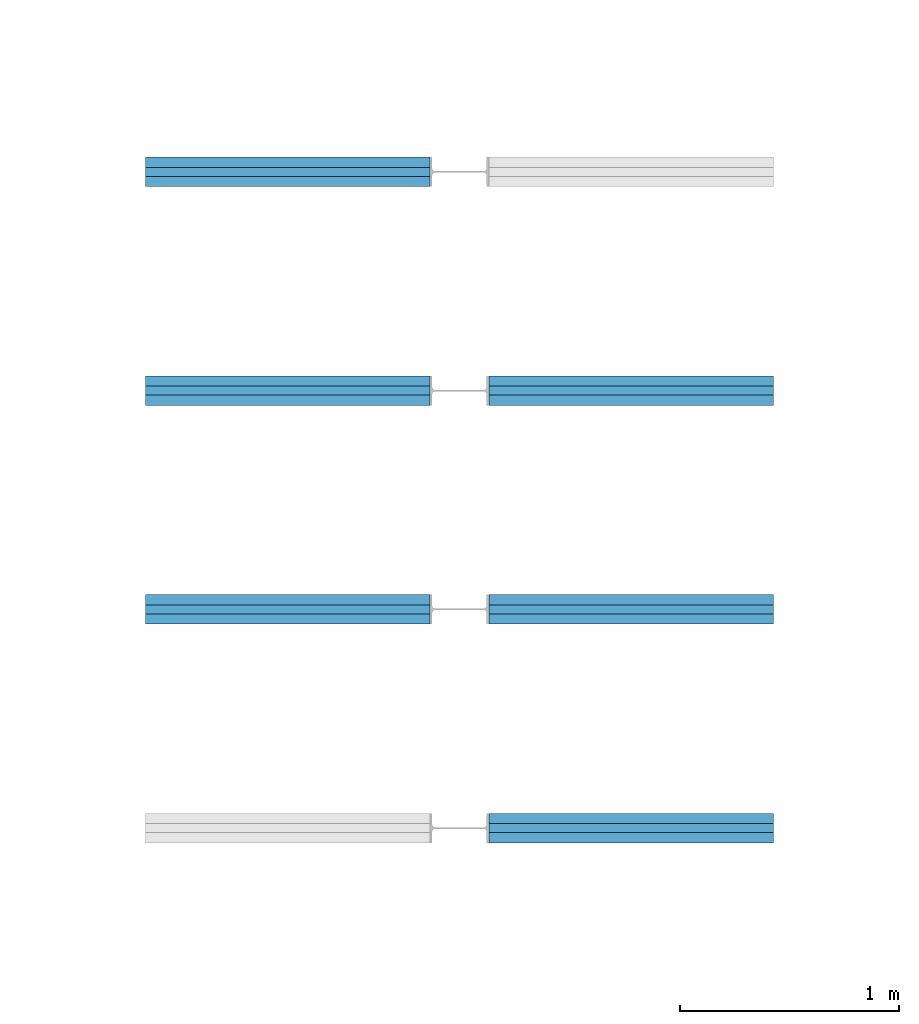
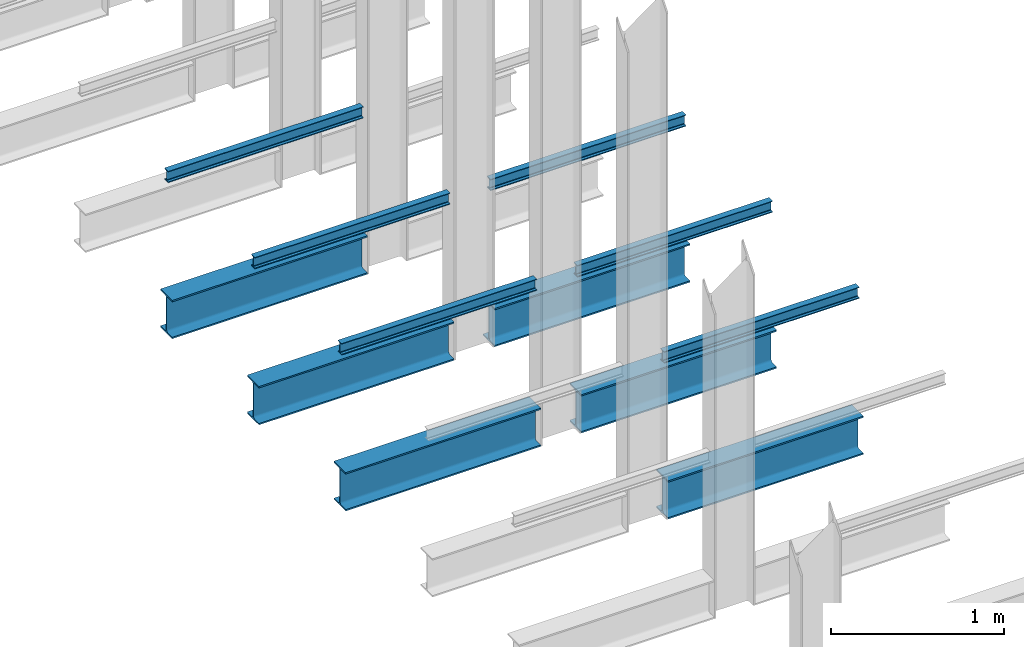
# One storey, part 170 of 302: 12 beams.
"""IFC2X3 building model written with IfcOpenShell, lengths in metres."""

from ifc_helpers import new_model, entity, si_unit, converted_unit, derived_unit, direction, frame, frame_2d, origin, place, context, subcontext, project, spatial, polyline, circle_curve, parameter, trimmed, segment, composite_curve, i_section, outline, extrude, material, type_object, element, save


model = new_model("IFC2X3")

# Units and contexts
model_context = context("Model", 3, precision=1e-05, world=origin(), true_north=direction((6.12303176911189e-17, 1.0)))
body_context = subcontext(model_context, "Body", "Model", "MODEL_VIEW")
ifc_project = project(units=[si_unit("LENGTHUNIT", "METRE"), si_unit("AREAUNIT", "SQUARE_METRE"), si_unit("VOLUMEUNIT", "CUBIC_METRE"), converted_unit("PLANEANGLEUNIT", "DEGREE", entity("IfcRatioMeasure", 0.0174532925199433), si_unit("PLANEANGLEUNIT", "RADIAN"), dimensions=[0, 0, 0, 0, 0, 0, 0]), si_unit("MASSUNIT", "GRAM", prefix="KILO"), derived_unit("MASSDENSITYUNIT", [(si_unit("MASSUNIT", "GRAM", prefix="KILO"), 1), (si_unit("LENGTHUNIT", "METRE"), -3)]), derived_unit("MOMENTOFINERTIAUNIT", [(si_unit("LENGTHUNIT", "METRE"), 4)]), si_unit("TIMEUNIT", "SECOND"), si_unit("FREQUENCYUNIT", "HERTZ"), si_unit("THERMODYNAMICTEMPERATUREUNIT", "DEGREE_CELSIUS"), derived_unit("THERMALTRANSMITTANCEUNIT", [(si_unit("MASSUNIT", "GRAM", prefix="KILO"), 1), (si_unit("THERMODYNAMICTEMPERATUREUNIT", "KELVIN"), -1), (si_unit("TIMEUNIT", "SECOND"), -3)]), derived_unit("VOLUMETRICFLOWRATEUNIT", [(si_unit("LENGTHUNIT", "METRE"), 3), (si_unit("TIMEUNIT", "SECOND"), -1)]), si_unit("ELECTRICCURRENTUNIT", "AMPERE"), si_unit("ELECTRICVOLTAGEUNIT", "VOLT"), si_unit("POWERUNIT", "WATT"), si_unit("FORCEUNIT", "NEWTON", prefix="KILO"), si_unit("ILLUMINANCEUNIT", "LUX"), si_unit("LUMINOUSFLUXUNIT", "LUMEN"), si_unit("LUMINOUSINTENSITYUNIT", "CANDELA"), derived_unit("USERDEFINED", [(si_unit("MASSUNIT", "GRAM", prefix="KILO"), -1), (si_unit("LENGTHUNIT", "METRE"), -2), (si_unit("TIMEUNIT", "SECOND"), 3), (si_unit("LUMINOUSFLUXUNIT", "LUMEN"), 1)]), derived_unit("LINEARVELOCITYUNIT", [(si_unit("LENGTHUNIT", "METRE"), 1), (si_unit("TIMEUNIT", "SECOND"), -1)]), si_unit("PRESSUREUNIT", "PASCAL"), derived_unit("USERDEFINED", [(si_unit("LENGTHUNIT", "METRE"), -2), (si_unit("MASSUNIT", "GRAM", prefix="KILO"), 1), (si_unit("TIMEUNIT", "SECOND"), -2)]), derived_unit("LINEARFORCEUNIT", [(si_unit("MASSUNIT", "GRAM", prefix="KILO"), 1), (si_unit("LENGTHUNIT", "METRE"), 1), (si_unit("TIMEUNIT", "SECOND"), -2), (si_unit("LENGTHUNIT", "METRE"), -1)]), derived_unit("PLANARFORCEUNIT", [(si_unit("MASSUNIT", "GRAM", prefix="KILO"), 1), (si_unit("LENGTHUNIT", "METRE"), 1), (si_unit("TIMEUNIT", "SECOND"), -2), (si_unit("LENGTHUNIT", "METRE"), -2)])], contexts=[model_context])

# Site, building, storey
site_placement = place(None, origin())
site = spatial("IfcSite", under=ifc_project, at=site_placement, Name="Default", CompositionType="ELEMENT")
building_placement = place(site_placement, origin())
building = spatial("IfcBuilding", under=site, at=building_placement, CompositionType="ELEMENT")
storey_placement = place(building_placement, frame((0.0, 0.0, -1.3)))
storey = spatial("IfcBuildingStorey", under=building, at=storey_placement, Name="00_EG", CompositionType="ELEMENT", Elevation=-1.3)

# Beams
ifc_material = material(Name="Metall - Baustahl S235")
beam_type_1 = type_object("IfcBeamType", Name="IPN Träger:IPN 80", PredefinedType="NOTDEFINED")
beam_1_placement = place(storey_placement, frame((-164.910111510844, 39.036588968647, 2.42), z_axis=(0.0, 0.0, 1.0), x_axis=(-1.0, 0.0, 0.0)))
element("IfcBeam", 1, at=beam_1_placement, inside=storey, type_object=beam_type_1, material=ifc_material, Name="IPN Träger:IPN 80", ObjectType="IPN Träger:IPN 80", context=body_context, shape_type="SweptSolid", body=[
    extrude(outline(composite_curve([segment(polyline([(0.0375704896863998, -0.0210000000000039), (0.0399999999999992, -0.0210000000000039)]), True, "CONTINUOUS"), segment(polyline([(0.0399999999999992, -0.0210000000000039), (0.0399999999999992, 0.0209999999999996)]), True, "CONTINUOUS"), segment(polyline([(0.039999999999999, 0.0209999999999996), (0.037570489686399, 0.0209999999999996)]), True, "CONTINUOUS"), segment(trimmed(circle_curve(frame_2d((0.037570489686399, 0.0187000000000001), x_axis=(0.0, 1.0)), 0.00230000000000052), [parameter(0.0)], [parameter(82.0299999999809)], True, "PARAMETER"), True, "CONTINUOUS"), segment(polyline([(0.0352927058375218, 0.0190189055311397), (0.0333732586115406, 0.0053092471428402)]), True, "CONTINUOUS"), segment(trimmed(circle_curve(frame_2d((0.0295109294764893, 0.00584999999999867), x_axis=(0.990340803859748, -0.138654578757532)), 0.00389999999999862), [parameter(277.969999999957)], [parameter(0.0)], True, "PARAMETER"), False, "CONTINUOUS"), segment(polyline([(0.0295109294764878, 0.00194999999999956), (-0.0295109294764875, 0.00194999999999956)]), True, "CONTINUOUS"), segment(trimmed(circle_curve(frame_2d((-0.029510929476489, 0.00584999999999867), x_axis=(0.0, -1.0)), 0.00389999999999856), [parameter(277.969999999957)], [parameter(0.0)], True, "PARAMETER"), False, "CONTINUOUS"), segment(polyline([(-0.0333732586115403, 0.00530924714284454), (-0.0352927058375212, 0.019018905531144)]), True, "CONTINUOUS"), segment(trimmed(circle_curve(frame_2d((-0.0375704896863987, 0.0187000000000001), x_axis=(0.990340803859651, 0.138654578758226)), 0.00230000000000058), [parameter(0.0)], [parameter(82.029999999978)], True, "PARAMETER"), True, "CONTINUOUS"), segment(polyline([(-0.0375704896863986, 0.0209999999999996), (-0.0400000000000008, 0.0209999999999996)]), True, "CONTINUOUS"), segment(polyline([(-0.0400000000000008, 0.0209999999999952), (-0.0400000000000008, -0.0210000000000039)]), True, "CONTINUOUS"), segment(polyline([(-0.0400000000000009, -0.0210000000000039), (-0.037570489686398, -0.0210000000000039)]), True, "CONTINUOUS"), segment(trimmed(circle_curve(frame_2d((-0.0375704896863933, -0.0187000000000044), x_axis=(0.0, -1.0)), 0.00229999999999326), [parameter(0.0)], [parameter(82.0300000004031)], True, "PARAMETER"), True, "CONTINUOUS"), segment(polyline([(-0.0352927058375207, -0.019018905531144), (-0.0333732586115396, -0.00530924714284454)]), True, "CONTINUOUS"), segment(trimmed(circle_curve(frame_2d((-0.0295109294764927, -0.00584999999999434), x_axis=(-0.990340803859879, 0.138654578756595)), 0.00389999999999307), [parameter(277.969999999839)], [parameter(0.0)], True, "PARAMETER"), False, "CONTINUOUS"), segment(polyline([(-0.0295109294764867, -0.00195000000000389), (0.0295109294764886, -0.00195000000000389)]), True, "CONTINUOUS"), segment(trimmed(circle_curve(frame_2d((0.0295109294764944, -0.00584999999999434), x_axis=(0.0, 1.0)), 0.00389999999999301), [parameter(277.969999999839)], [parameter(0.0)], True, "PARAMETER"), False, "CONTINUOUS"), segment(polyline([(0.0333732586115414, -0.00530924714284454), (0.0352927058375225, -0.019018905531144)]), True, "CONTINUOUS"), segment(trimmed(circle_curve(frame_2d((0.0375704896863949, -0.0187000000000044), x_axis=(-0.990340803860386, -0.138654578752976)), 0.00229999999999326), [parameter(0.0)], [parameter(82.0300000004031)], True, "PARAMETER"), True, "CONTINUOUS")], self_intersect=False)), frame((0.000100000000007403, 0.0209999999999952, -0.0400000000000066), z_axis=(1.0, 0.0, 0.0), x_axis=(0.0, 0.0, -1.0)), (0.0, 0.0, 1.0), 1.29990000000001),
])
beam_2_placement = place(storey_placement, frame((-164.640111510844, 37.994588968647, 2.42)))
element("IfcBeam", 2, at=beam_2_placement, inside=storey, type_object=beam_type_1, material=ifc_material, Name="IPN Träger:IPN 80", ObjectType="IPN Träger:IPN 80", context=body_context, shape_type="SweptSolid", body=[
    extrude(outline(composite_curve([segment(polyline([(0.0375704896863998, -0.0209999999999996), (0.0399999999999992, -0.0209999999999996)]), True, "CONTINUOUS"), segment(polyline([(0.0399999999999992, -0.0209999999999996), (0.0399999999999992, 0.0209999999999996)]), True, "CONTINUOUS"), segment(polyline([(0.039999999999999, 0.0209999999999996), (0.037570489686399, 0.0209999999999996)]), True, "CONTINUOUS"), segment(trimmed(circle_curve(frame_2d((0.037570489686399, 0.0187000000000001), x_axis=(0.0, 1.0)), 0.00230000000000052), [parameter(0.0)], [parameter(82.0299999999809)], True, "PARAMETER"), True, "CONTINUOUS"), segment(polyline([(0.0352927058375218, 0.0190189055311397), (0.0333732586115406, 0.00530924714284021)]), True, "CONTINUOUS"), segment(trimmed(circle_curve(frame_2d((0.0295109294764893, 0.00584999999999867), x_axis=(0.990340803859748, -0.138654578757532)), 0.00389999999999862), [parameter(277.969999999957)], [parameter(0.0)], True, "PARAMETER"), False, "CONTINUOUS"), segment(polyline([(0.0295109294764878, 0.00194999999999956), (-0.0295109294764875, 0.00194999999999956)]), True, "CONTINUOUS"), segment(trimmed(circle_curve(frame_2d((-0.029510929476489, 0.00584999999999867), x_axis=(0.0, -1.0)), 0.00389999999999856), [parameter(277.969999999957)], [parameter(0.0)], True, "PARAMETER"), False, "CONTINUOUS"), segment(polyline([(-0.0333732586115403, 0.00530924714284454), (-0.0352927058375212, 0.019018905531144)]), True, "CONTINUOUS"), segment(trimmed(circle_curve(frame_2d((-0.0375704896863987, 0.0187000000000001), x_axis=(0.990340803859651, 0.138654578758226)), 0.00230000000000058), [parameter(0.0)], [parameter(82.029999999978)], True, "PARAMETER"), True, "CONTINUOUS"), segment(polyline([(-0.0375704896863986, 0.0209999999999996), (-0.0400000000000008, 0.0209999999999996)]), True, "CONTINUOUS"), segment(polyline([(-0.0400000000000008, 0.0209999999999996), (-0.0400000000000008, -0.0209999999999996)]), True, "CONTINUOUS"), segment(polyline([(-0.0400000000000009, -0.0209999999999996), (-0.037570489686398, -0.0209999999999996)]), True, "CONTINUOUS"), segment(trimmed(circle_curve(frame_2d((-0.0375704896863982, -0.0187000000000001), x_axis=(0.0, -1.0)), 0.00230000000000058), [parameter(0.0)], [parameter(82.029999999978)], True, "PARAMETER"), True, "CONTINUOUS"), segment(polyline([(-0.0352927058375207, -0.0190189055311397), (-0.0333732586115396, -0.00530924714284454)]), True, "CONTINUOUS"), segment(trimmed(circle_curve(frame_2d((-0.0295109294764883, -0.00584999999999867), x_axis=(-0.990340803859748, 0.138654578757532)), 0.00389999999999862), [parameter(277.969999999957)], [parameter(0.0)], True, "PARAMETER"), False, "CONTINUOUS"), segment(polyline([(-0.0295109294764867, -0.00194999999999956), (0.0295109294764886, -0.00194999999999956)]), True, "CONTINUOUS"), segment(trimmed(circle_curve(frame_2d((0.0295109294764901, -0.00584999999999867), x_axis=(0.0, 1.0)), 0.00389999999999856), [parameter(277.969999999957)], [parameter(0.0)], True, "PARAMETER"), False, "CONTINUOUS"), segment(polyline([(0.0333732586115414, -0.00530924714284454), (0.0352927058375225, -0.019018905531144)]), True, "CONTINUOUS"), segment(trimmed(circle_curve(frame_2d((0.0375704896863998, -0.0187000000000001), x_axis=(-0.990340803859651, -0.138654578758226)), 0.00230000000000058), [parameter(0.0)], [parameter(82.029999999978)], True, "PARAMETER"), True, "CONTINUOUS")], self_intersect=False)), frame((9.99999999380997e-05, 0.0209999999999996, -0.0400000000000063), z_axis=(1.0, 0.0, 0.0), x_axis=(0.0, 0.0, -1.0)), (0.0, 0.0, 1.0), 1.29990000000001),
])
beam_3_placement = place(storey_placement, frame((-164.910111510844, 38.036588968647, 2.42), z_axis=(0.0, 0.0, 1.0), x_axis=(-1.0, 0.0, 0.0)))
element("IfcBeam", 3, at=beam_3_placement, inside=storey, type_object=beam_type_1, material=ifc_material, Name="IPN Träger:IPN 80", ObjectType="IPN Träger:IPN 80", context=body_context, shape_type="SweptSolid", body=[
    extrude(outline(composite_curve([segment(polyline([(0.0375704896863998, -0.0210000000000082), (0.0399999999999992, -0.0210000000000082)]), True, "CONTINUOUS"), segment(polyline([(0.0399999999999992, -0.0210000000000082), (0.0399999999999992, 0.0209999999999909)]), True, "CONTINUOUS"), segment(polyline([(0.039999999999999, 0.0209999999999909), (0.037570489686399, 0.0209999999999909)]), True, "CONTINUOUS"), segment(trimmed(circle_curve(frame_2d((0.037570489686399, 0.0186999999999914), x_axis=(0.0, 1.0)), 0.00230000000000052), [parameter(0.0)], [parameter(82.0299999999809)], True, "PARAMETER"), True, "CONTINUOUS"), segment(polyline([(0.0352927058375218, 0.019018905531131), (0.0333732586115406, 0.00530924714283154)]), True, "CONTINUOUS"), segment(trimmed(circle_curve(frame_2d((0.0295109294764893, 0.00584999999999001), x_axis=(0.990340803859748, -0.138654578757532)), 0.00389999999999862), [parameter(277.969999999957)], [parameter(0.0)], True, "PARAMETER"), False, "CONTINUOUS"), segment(polyline([(0.0295109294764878, 0.00194999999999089), (-0.0295109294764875, 0.00194999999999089)]), True, "CONTINUOUS"), segment(trimmed(circle_curve(frame_2d((-0.029510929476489, 0.00584999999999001), x_axis=(0.0, -1.0)), 0.00389999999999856), [parameter(277.969999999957)], [parameter(0.0)], True, "PARAMETER"), False, "CONTINUOUS"), segment(polyline([(-0.0333732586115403, 0.00530924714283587), (-0.0352927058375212, 0.0190189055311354)]), True, "CONTINUOUS"), segment(trimmed(circle_curve(frame_2d((-0.0375704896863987, 0.0186999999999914), x_axis=(0.990340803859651, 0.138654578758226)), 0.00230000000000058), [parameter(0.0)], [parameter(82.029999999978)], True, "PARAMETER"), True, "CONTINUOUS"), segment(polyline([(-0.0375704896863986, 0.0209999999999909), (-0.0400000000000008, 0.0209999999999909)]), True, "CONTINUOUS"), segment(polyline([(-0.0400000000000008, 0.0209999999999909), (-0.0400000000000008, -0.0210000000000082)]), True, "CONTINUOUS"), segment(polyline([(-0.0400000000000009, -0.0210000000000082), (-0.037570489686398, -0.0210000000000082)]), True, "CONTINUOUS"), segment(trimmed(circle_curve(frame_2d((-0.0375704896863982, -0.0187000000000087), x_axis=(0.0, -1.0)), 0.00230000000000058), [parameter(0.0)], [parameter(82.029999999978)], True, "PARAMETER"), True, "CONTINUOUS"), segment(polyline([(-0.0352927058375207, -0.0190189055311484), (-0.0333732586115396, -0.0053092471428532)]), True, "CONTINUOUS"), segment(trimmed(circle_curve(frame_2d((-0.0295109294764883, -0.00585000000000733), x_axis=(-0.990340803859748, 0.138654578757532)), 0.00389999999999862), [parameter(277.969999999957)], [parameter(0.0)], True, "PARAMETER"), False, "CONTINUOUS"), segment(polyline([(-0.0295109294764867, -0.00195000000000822), (0.0295109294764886, -0.00195000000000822)]), True, "CONTINUOUS"), segment(trimmed(circle_curve(frame_2d((0.0295109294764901, -0.00585000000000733), x_axis=(0.0, 1.0)), 0.00389999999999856), [parameter(277.969999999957)], [parameter(0.0)], True, "PARAMETER"), False, "CONTINUOUS"), segment(polyline([(0.0333732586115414, -0.0053092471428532), (0.0352927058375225, -0.0190189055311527)]), True, "CONTINUOUS"), segment(trimmed(circle_curve(frame_2d((0.0375704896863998, -0.0187000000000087), x_axis=(-0.990340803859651, -0.138654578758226)), 0.00230000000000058), [parameter(0.0)], [parameter(82.029999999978)], True, "PARAMETER"), True, "CONTINUOUS")], self_intersect=False)), frame((0.000100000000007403, 0.0210000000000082, -0.0400000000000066), z_axis=(1.0, 0.0, 0.0), x_axis=(0.0, 0.0, -1.0)), (0.0, 0.0, 1.0), 1.29990000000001),
])
beam_4_placement = place(storey_placement, frame((-164.640111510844, 36.994588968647, 2.42)))
element("IfcBeam", 4, at=beam_4_placement, inside=storey, type_object=beam_type_1, material=ifc_material, Name="IPN Träger:IPN 80", ObjectType="IPN Träger:IPN 80", context=body_context, shape_type="SweptSolid", body=[
    extrude(outline(composite_curve([segment(polyline([(0.0375704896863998, -0.0210000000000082), (0.0399999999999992, -0.0210000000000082)]), True, "CONTINUOUS"), segment(polyline([(0.0399999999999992, -0.0210000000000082), (0.0399999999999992, 0.0209999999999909)]), True, "CONTINUOUS"), segment(polyline([(0.039999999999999, 0.0209999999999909), (0.037570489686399, 0.0209999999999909)]), True, "CONTINUOUS"), segment(trimmed(circle_curve(frame_2d((0.037570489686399, 0.0186999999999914), x_axis=(0.0, 1.0)), 0.00230000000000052), [parameter(0.0)], [parameter(82.0299999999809)], True, "PARAMETER"), True, "CONTINUOUS"), segment(polyline([(0.0352927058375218, 0.019018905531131), (0.0333732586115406, 0.00530924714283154)]), True, "CONTINUOUS"), segment(trimmed(circle_curve(frame_2d((0.0295109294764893, 0.00584999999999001), x_axis=(0.990340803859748, -0.138654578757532)), 0.00389999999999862), [parameter(277.969999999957)], [parameter(0.0)], True, "PARAMETER"), False, "CONTINUOUS"), segment(polyline([(0.0295109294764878, 0.00194999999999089), (-0.0295109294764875, 0.00194999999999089)]), True, "CONTINUOUS"), segment(trimmed(circle_curve(frame_2d((-0.029510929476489, 0.00584999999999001), x_axis=(0.0, -1.0)), 0.00389999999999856), [parameter(277.969999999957)], [parameter(0.0)], True, "PARAMETER"), False, "CONTINUOUS"), segment(polyline([(-0.0333732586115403, 0.00530924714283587), (-0.0352927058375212, 0.0190189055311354)]), True, "CONTINUOUS"), segment(trimmed(circle_curve(frame_2d((-0.0375704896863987, 0.0186999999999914), x_axis=(0.990340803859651, 0.138654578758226)), 0.00230000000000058), [parameter(0.0)], [parameter(82.029999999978)], True, "PARAMETER"), True, "CONTINUOUS"), segment(polyline([(-0.0375704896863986, 0.0209999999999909), (-0.0400000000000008, 0.0209999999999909)]), True, "CONTINUOUS"), segment(polyline([(-0.0400000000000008, 0.0209999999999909), (-0.0400000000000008, -0.0210000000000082)]), True, "CONTINUOUS"), segment(polyline([(-0.0400000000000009, -0.0210000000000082), (-0.037570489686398, -0.0210000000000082)]), True, "CONTINUOUS"), segment(trimmed(circle_curve(frame_2d((-0.0375704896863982, -0.0187000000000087), x_axis=(0.0, -1.0)), 0.00230000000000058), [parameter(0.0)], [parameter(82.029999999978)], True, "PARAMETER"), True, "CONTINUOUS"), segment(polyline([(-0.0352927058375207, -0.0190189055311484), (-0.0333732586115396, -0.0053092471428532)]), True, "CONTINUOUS"), segment(trimmed(circle_curve(frame_2d((-0.0295109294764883, -0.00585000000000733), x_axis=(-0.990340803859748, 0.138654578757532)), 0.00389999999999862), [parameter(277.969999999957)], [parameter(0.0)], True, "PARAMETER"), False, "CONTINUOUS"), segment(polyline([(-0.0295109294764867, -0.00195000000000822), (0.0295109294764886, -0.00195000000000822)]), True, "CONTINUOUS"), segment(trimmed(circle_curve(frame_2d((0.0295109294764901, -0.00585000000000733), x_axis=(0.0, 1.0)), 0.00389999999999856), [parameter(277.969999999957)], [parameter(0.0)], True, "PARAMETER"), False, "CONTINUOUS"), segment(polyline([(0.0333732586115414, -0.0053092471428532), (0.0352927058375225, -0.0190189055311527)]), True, "CONTINUOUS"), segment(trimmed(circle_curve(frame_2d((0.0375704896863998, -0.0187000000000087), x_axis=(-0.990340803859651, -0.138654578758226)), 0.00230000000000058), [parameter(0.0)], [parameter(82.029999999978)], True, "PARAMETER"), True, "CONTINUOUS")], self_intersect=False)), frame((9.99999999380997e-05, 0.0210000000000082, -0.0400000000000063), z_axis=(1.0, 0.0, 0.0), x_axis=(0.0, 0.0, -1.0)), (0.0, 0.0, 1.0), 1.29990000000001),
])
beam_5_placement = place(storey_placement, frame((-164.910111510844, 37.036588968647, 2.42), z_axis=(0.0, 0.0, 1.0), x_axis=(-1.0, 0.0, 0.0)))
element("IfcBeam", 5, at=beam_5_placement, inside=storey, type_object=beam_type_1, material=ifc_material, Name="IPN Träger:IPN 80", ObjectType="IPN Träger:IPN 80", context=body_context, shape_type="SweptSolid", body=[
    extrude(outline(composite_curve([segment(polyline([(0.0375704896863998, -0.0210000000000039), (0.0399999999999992, -0.0210000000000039)]), True, "CONTINUOUS"), segment(polyline([(0.0399999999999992, -0.0210000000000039), (0.0399999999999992, 0.0209999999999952)]), True, "CONTINUOUS"), segment(polyline([(0.039999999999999, 0.0209999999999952), (0.037570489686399, 0.0209999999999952)]), True, "CONTINUOUS"), segment(trimmed(circle_curve(frame_2d((0.037570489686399, 0.0186999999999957), x_axis=(0.0, 1.0)), 0.00230000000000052), [parameter(0.0)], [parameter(82.0299999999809)], True, "PARAMETER"), True, "CONTINUOUS"), segment(polyline([(0.0352927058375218, 0.0190189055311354), (0.0333732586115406, 0.00530924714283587)]), True, "CONTINUOUS"), segment(trimmed(circle_curve(frame_2d((0.0295109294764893, 0.00584999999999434), x_axis=(0.990340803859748, -0.138654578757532)), 0.00389999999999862), [parameter(277.969999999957)], [parameter(0.0)], True, "PARAMETER"), False, "CONTINUOUS"), segment(polyline([(0.0295109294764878, 0.00194999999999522), (-0.0295109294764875, 0.00194999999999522)]), True, "CONTINUOUS"), segment(trimmed(circle_curve(frame_2d((-0.029510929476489, 0.00584999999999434), x_axis=(0.0, -1.0)), 0.00389999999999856), [parameter(277.969999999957)], [parameter(0.0)], True, "PARAMETER"), False, "CONTINUOUS"), segment(polyline([(-0.0333732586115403, 0.0053092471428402), (-0.0352927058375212, 0.0190189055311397)]), True, "CONTINUOUS"), segment(trimmed(circle_curve(frame_2d((-0.0375704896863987, 0.0186999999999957), x_axis=(0.990340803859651, 0.138654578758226)), 0.00230000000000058), [parameter(0.0)], [parameter(82.029999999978)], True, "PARAMETER"), True, "CONTINUOUS"), segment(polyline([(-0.0375704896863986, 0.0209999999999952), (-0.0400000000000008, 0.0209999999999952)]), True, "CONTINUOUS"), segment(polyline([(-0.0400000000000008, 0.0209999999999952), (-0.0400000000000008, -0.0210000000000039)]), True, "CONTINUOUS"), segment(polyline([(-0.0400000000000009, -0.0210000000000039), (-0.037570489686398, -0.0210000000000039)]), True, "CONTINUOUS"), segment(trimmed(circle_curve(frame_2d((-0.0375704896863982, -0.0187000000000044), x_axis=(0.0, -1.0)), 0.00230000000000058), [parameter(0.0)], [parameter(82.029999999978)], True, "PARAMETER"), True, "CONTINUOUS"), segment(polyline([(-0.0352927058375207, -0.019018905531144), (-0.0333732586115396, -0.00530924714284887)]), True, "CONTINUOUS"), segment(trimmed(circle_curve(frame_2d((-0.0295109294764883, -0.005850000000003), x_axis=(-0.990340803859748, 0.138654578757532)), 0.00389999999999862), [parameter(277.969999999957)], [parameter(0.0)], True, "PARAMETER"), False, "CONTINUOUS"), segment(polyline([(-0.0295109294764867, -0.00195000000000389), (0.0295109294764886, -0.00195000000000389)]), True, "CONTINUOUS"), segment(trimmed(circle_curve(frame_2d((0.0295109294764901, -0.005850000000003), x_axis=(0.0, 1.0)), 0.00389999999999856), [parameter(277.969999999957)], [parameter(0.0)], True, "PARAMETER"), False, "CONTINUOUS"), segment(polyline([(0.0333732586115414, -0.00530924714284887), (0.0352927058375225, -0.0190189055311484)]), True, "CONTINUOUS"), segment(trimmed(circle_curve(frame_2d((0.0375704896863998, -0.0187000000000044), x_axis=(-0.990340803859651, -0.138654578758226)), 0.00230000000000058), [parameter(0.0)], [parameter(82.029999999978)], True, "PARAMETER"), True, "CONTINUOUS")], self_intersect=False)), frame((0.000100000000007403, 0.0210000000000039, -0.0400000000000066), z_axis=(1.0, 0.0, 0.0), x_axis=(0.0, 0.0, -1.0)), (0.0, 0.0, 1.0), 1.29990000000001),
])
beam_6_placement = place(storey_placement, frame((-164.640111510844, 35.994588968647, 2.42)))
element("IfcBeam", 6, at=beam_6_placement, inside=storey, type_object=beam_type_1, material=ifc_material, Name="IPN Träger:IPN 80", ObjectType="IPN Träger:IPN 80", context=body_context, shape_type="SweptSolid", body=[
    extrude(outline(composite_curve([segment(polyline([(0.0375704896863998, -0.0209999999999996), (0.0399999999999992, -0.0209999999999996)]), True, "CONTINUOUS"), segment(polyline([(0.0399999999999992, -0.0209999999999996), (0.0399999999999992, 0.0209999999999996)]), True, "CONTINUOUS"), segment(polyline([(0.039999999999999, 0.0209999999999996), (0.037570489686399, 0.0209999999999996)]), True, "CONTINUOUS"), segment(trimmed(circle_curve(frame_2d((0.037570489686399, 0.0187000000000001), x_axis=(0.0, 1.0)), 0.00230000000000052), [parameter(0.0)], [parameter(82.0299999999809)], True, "PARAMETER"), True, "CONTINUOUS"), segment(polyline([(0.0352927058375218, 0.0190189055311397), (0.0333732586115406, 0.00530924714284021)]), True, "CONTINUOUS"), segment(trimmed(circle_curve(frame_2d((0.0295109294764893, 0.00584999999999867), x_axis=(0.990340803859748, -0.138654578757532)), 0.00389999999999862), [parameter(277.969999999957)], [parameter(0.0)], True, "PARAMETER"), False, "CONTINUOUS"), segment(polyline([(0.0295109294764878, 0.00194999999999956), (-0.0295109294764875, 0.00194999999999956)]), True, "CONTINUOUS"), segment(trimmed(circle_curve(frame_2d((-0.029510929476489, 0.00584999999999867), x_axis=(0.0, -1.0)), 0.00389999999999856), [parameter(277.969999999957)], [parameter(0.0)], True, "PARAMETER"), False, "CONTINUOUS"), segment(polyline([(-0.0333732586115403, 0.00530924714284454), (-0.0352927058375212, 0.019018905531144)]), True, "CONTINUOUS"), segment(trimmed(circle_curve(frame_2d((-0.0375704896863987, 0.0187000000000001), x_axis=(0.990340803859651, 0.138654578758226)), 0.00230000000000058), [parameter(0.0)], [parameter(82.029999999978)], True, "PARAMETER"), True, "CONTINUOUS"), segment(polyline([(-0.0375704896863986, 0.0209999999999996), (-0.0400000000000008, 0.0209999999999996)]), True, "CONTINUOUS"), segment(polyline([(-0.0400000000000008, 0.0209999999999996), (-0.0400000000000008, -0.0209999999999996)]), True, "CONTINUOUS"), segment(polyline([(-0.0400000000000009, -0.0209999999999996), (-0.037570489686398, -0.0209999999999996)]), True, "CONTINUOUS"), segment(trimmed(circle_curve(frame_2d((-0.0375704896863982, -0.0187000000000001), x_axis=(0.0, -1.0)), 0.00230000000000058), [parameter(0.0)], [parameter(82.029999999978)], True, "PARAMETER"), True, "CONTINUOUS"), segment(polyline([(-0.0352927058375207, -0.0190189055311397), (-0.0333732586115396, -0.00530924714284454)]), True, "CONTINUOUS"), segment(trimmed(circle_curve(frame_2d((-0.0295109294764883, -0.00584999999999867), x_axis=(-0.990340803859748, 0.138654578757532)), 0.00389999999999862), [parameter(277.969999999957)], [parameter(0.0)], True, "PARAMETER"), False, "CONTINUOUS"), segment(polyline([(-0.0295109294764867, -0.00194999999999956), (0.0295109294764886, -0.00194999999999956)]), True, "CONTINUOUS"), segment(trimmed(circle_curve(frame_2d((0.0295109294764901, -0.00584999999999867), x_axis=(0.0, 1.0)), 0.00389999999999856), [parameter(277.969999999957)], [parameter(0.0)], True, "PARAMETER"), False, "CONTINUOUS"), segment(polyline([(0.0333732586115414, -0.00530924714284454), (0.0352927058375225, -0.019018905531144)]), True, "CONTINUOUS"), segment(trimmed(circle_curve(frame_2d((0.0375704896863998, -0.0187000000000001), x_axis=(-0.990340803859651, -0.138654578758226)), 0.00230000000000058), [parameter(0.0)], [parameter(82.029999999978)], True, "PARAMETER"), True, "CONTINUOUS")], self_intersect=False)), frame((9.99999999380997e-05, 0.0209999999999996, -0.0400000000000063), z_axis=(1.0, 0.0, 0.0), x_axis=(0.0, 0.0, -1.0)), (0.0, 0.0, 1.0), 1.29990000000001),
])
beam_type_2 = type_object("IfcBeamType", Name="IPE Träger:IPE 270", PredefinedType="NOTDEFINED")
beam_7_placement = place(storey_placement, frame((-164.640111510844, 36.083088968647, 1.54000000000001)))
element("IfcBeam", 7, at=beam_7_placement, inside=storey, type_object=beam_type_2, material=ifc_material, Name="IPE Träger:IPE 270", ObjectType="IPE Träger:IPE 270", context=body_context, shape_type="SweptSolid", body=[
    extrude(i_section(OverallWidth=0.134999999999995, OverallDepth=0.27, WebThickness=0.00660000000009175, FlangeThickness=0.0102000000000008, FilletRadius=0.0150000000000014, at=frame_2d((5.96744875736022e-16, 2.16493489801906e-15), x_axis=(0.0, 1.0))), frame((9.99999999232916e-05, -0.0674999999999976, -0.135000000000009), z_axis=(1.0, 0.0, 0.0), x_axis=(0.0, 0.0, -1.0)), (0.0, 0.0, 1.0), 1.29990000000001),
])
beam_8_placement = place(storey_placement, frame((-164.910111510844, 37.083088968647, 1.54000000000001), z_axis=(0.0, 0.0, 1.0), x_axis=(-1.0, 0.0, 0.0)))
element("IfcBeam", 8, at=beam_8_placement, inside=storey, type_object=beam_type_2, material=ifc_material, Name="IPE Träger:IPE 270", ObjectType="IPE Träger:IPE 270", context=body_context, shape_type="SweptSolid", body=[
    extrude(i_section(OverallWidth=0.134999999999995, OverallDepth=0.27, WebThickness=0.00660000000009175, FlangeThickness=0.0102000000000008, FilletRadius=0.0150000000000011, at=frame_2d((5.96744875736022e-16, -1.51545442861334e-14), x_axis=(0.0, 1.0))), frame((0.000100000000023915, 0.067500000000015, -0.135000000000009), z_axis=(1.0, 0.0, 0.0), x_axis=(0.0, 0.0, -1.0)), (0.0, 0.0, 1.0), 1.29990000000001),
])
beam_9_placement = place(storey_placement, frame((-164.640111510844, 37.083088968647, 1.54000000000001)))
element("IfcBeam", 9, at=beam_9_placement, inside=storey, type_object=beam_type_2, material=ifc_material, Name="IPE Träger:IPE 270", ObjectType="IPE Träger:IPE 270", context=body_context, shape_type="SweptSolid", body=[
    extrude(i_section(OverallWidth=0.134999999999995, OverallDepth=0.27, WebThickness=0.00660000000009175, FlangeThickness=0.0102000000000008, FilletRadius=0.0150000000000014, at=frame_2d((5.96744875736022e-16, 6.49480469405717e-15), x_axis=(0.0, 1.0))), frame((9.99999999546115e-05, -0.067500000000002, -0.135000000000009), z_axis=(1.0, 0.0, 0.0), x_axis=(0.0, 0.0, -1.0)), (0.0, 0.0, 1.0), 1.29990000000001),
])
beam_10_placement = place(storey_placement, frame((-164.910111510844, 38.083088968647, 1.54000000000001), z_axis=(0.0, 0.0, 1.0), x_axis=(-1.0, 0.0, 0.0)))
element("IfcBeam", 10, at=beam_10_placement, inside=storey, type_object=beam_type_2, material=ifc_material, Name="IPE Träger:IPE 270", ObjectType="IPE Träger:IPE 270", context=body_context, shape_type="SweptSolid", body=[
    extrude(i_section(OverallWidth=0.134999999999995, OverallDepth=0.27, WebThickness=0.00660000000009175, FlangeThickness=0.0102000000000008, FilletRadius=0.0150000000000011, at=frame_2d((5.96744875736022e-16, 2.16493489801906e-15), x_axis=(0.0, 1.0))), frame((0.000100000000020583, 0.0674999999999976, -0.135000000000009), z_axis=(1.0, 0.0, 0.0), x_axis=(0.0, 0.0, -1.0)), (0.0, 0.0, 1.0), 1.29990000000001),
])
beam_11_placement = place(storey_placement, frame((-164.640111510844, 38.083088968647, 1.54000000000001)))
element("IfcBeam", 11, at=beam_11_placement, inside=storey, type_object=beam_type_2, material=ifc_material, Name="IPE Träger:IPE 270", ObjectType="IPE Träger:IPE 270", context=body_context, shape_type="SweptSolid", body=[
    extrude(i_section(OverallWidth=0.134999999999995, OverallDepth=0.27, WebThickness=0.00660000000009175, FlangeThickness=0.0102000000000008, FilletRadius=0.0150000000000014, at=frame_2d((5.96744875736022e-16, 2.16493489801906e-15), x_axis=(0.0, 1.0))), frame((9.99999999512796e-05, -0.0674999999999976, -0.135000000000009), z_axis=(1.0, 0.0, 0.0), x_axis=(0.0, 0.0, -1.0)), (0.0, 0.0, 1.0), 1.29990000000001),
])
beam_12_placement = place(storey_placement, frame((-164.910111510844, 39.083088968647, 1.54000000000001), z_axis=(0.0, 0.0, 1.0), x_axis=(-1.0, 0.0, 0.0)))
element("IfcBeam", 12, at=beam_12_placement, inside=storey, type_object=beam_type_2, material=ifc_material, Name="IPE Träger:IPE 270", ObjectType="IPE Träger:IPE 270", context=body_context, shape_type="SweptSolid", body=[
    extrude(i_section(OverallWidth=0.134999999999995, OverallDepth=0.27, WebThickness=0.0065999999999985, FlangeThickness=0.0102000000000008, FilletRadius=0.0149999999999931, at=frame_2d((6.24500451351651e-16, 6.50174358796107e-15), x_axis=(0.0, 1.0))), frame((0.000100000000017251, 0.0674999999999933, -0.135000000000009), z_axis=(1.0, 0.0, 0.0), x_axis=(0.0, 0.0, -1.0)), (0.0, 0.0, 1.0), 1.29990000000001),
])

save(model, "model.ifc")
